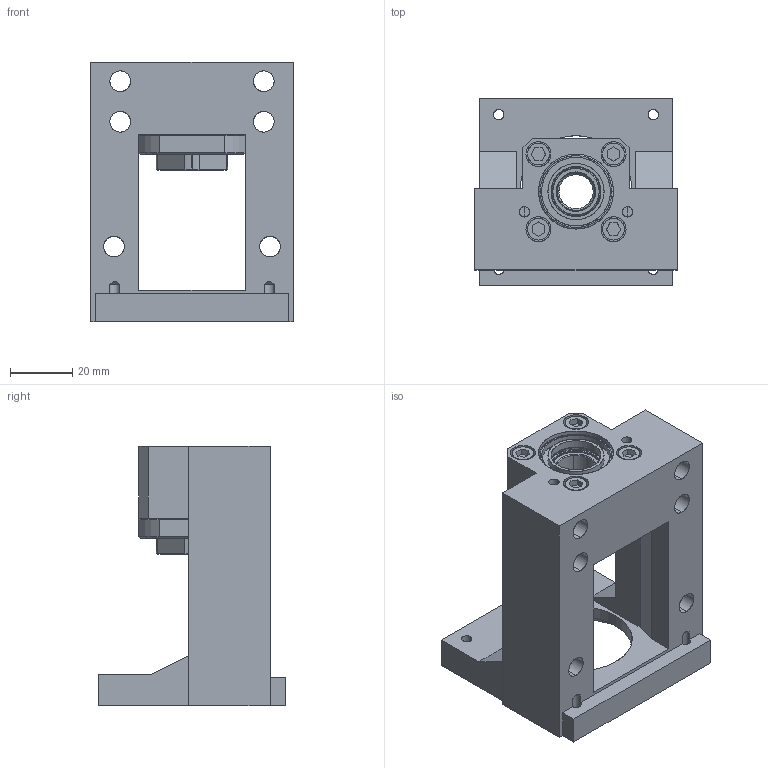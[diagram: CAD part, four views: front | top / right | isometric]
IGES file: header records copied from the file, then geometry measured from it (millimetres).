
Start section: SolidWorks IGES file using analytic representation for surfaces
Global section: file name: C:\Users\117\Desktop\1061208網站3D圖檔問題處理\傳動座\整合型\MBCB\MBCB12-DP.IGS,15HSolidWorks; native system: 2017; preprocessor: SolidWorks 2017; author: 117; date: 171228.145524; units: millimetre
Bounding box: 65 x 60 x 83 mm (x, y, z)
Surface area: 35023.1 mm2 (no closed solid volume)
Topology: 0 solids, 0 shells, 252 faces, 3882 edges, 3866 vertices
Faces by surface type: revolution 134, bspline 118
